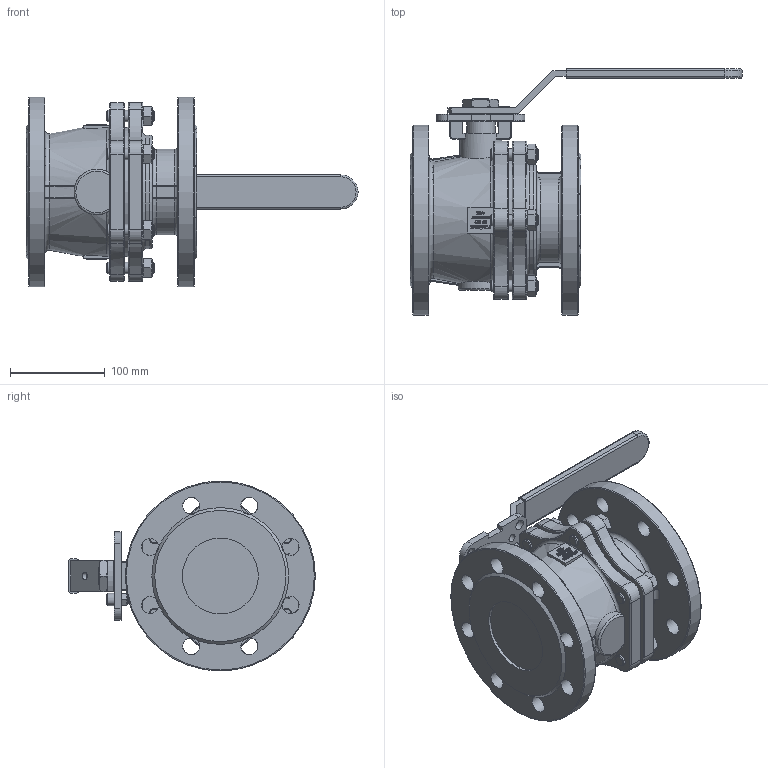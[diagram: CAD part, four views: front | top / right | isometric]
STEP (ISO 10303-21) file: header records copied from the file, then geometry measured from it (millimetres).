
FILE_DESCRIPTION((''),'2;1');
FILE_NAME('K:\Inventor\1 Artikel\12) Flanschen-Kugelhähne\12a) manuell\Econosto\460-GS, PN16, 7249\460-GS, DN80\460-GS, DN80, 3D\460-GS, DN80, PN16, HH, 3D.stp','2019-11-11T14:18:50',('claudia'),(''),'Autodesk Inventor 2013','Autodesk Inventor 2013','');
FILE_SCHEMA(('AUTOMOTIVE_DESIGN { 1 0 10303 214 1 1 1 1 }'));
Length unit declared in the file: millimetre
Products named in the file (1): Bauteil35
Bounding box: 349.5 x 259.6 x 200 mm (x, y, z)
Volume: 3269348.3 mm3; surface area: 297229.4 mm2
Topology: 1 solids, 2 shells, 1563 faces, 4176 edges, 2745 vertices
Faces by surface type: plane 761, bspline 547, cylinder 130, torus 83, cone 42
Full cylindrical faces by diameter (mm): 8 x4, 9 x4, 11 x4, 12 x18, 12.5 x6, 13 x1, 18 x16, 30 x1, 44 x1, 48 x1, 80 x2, 120 x1, 135.821 x1, 200 x2
Entity records: 54182 total; most frequent: CARTESIAN_POINT 18102, ORIENTED_EDGE 8094, DIRECTION 5280, EDGE_CURVE 4047, VERTEX_POINT 2716, VECTOR 2296, LINE 2296, EDGE_LOOP 1859
